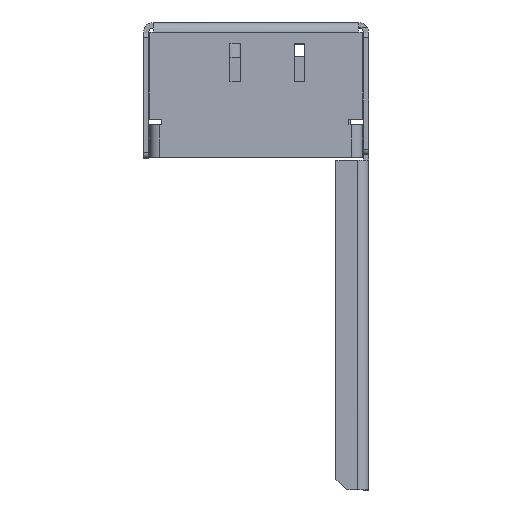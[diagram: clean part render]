
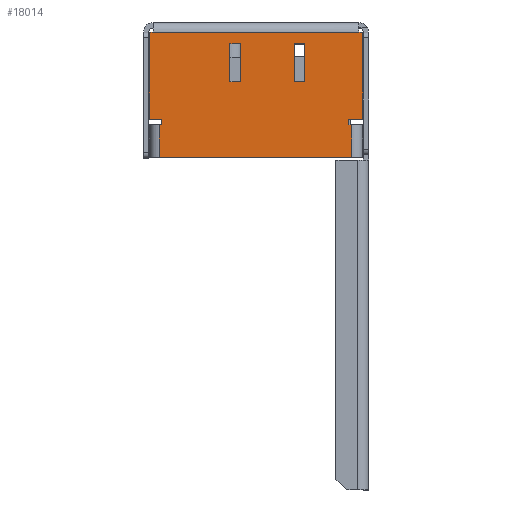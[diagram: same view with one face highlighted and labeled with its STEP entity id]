
A CAD part, left-side view. The second image highlights one B-rep face of the part: STEP entity #18014.
In plain terms, the highlighted planar face has unit normal (-1, 0, 0).
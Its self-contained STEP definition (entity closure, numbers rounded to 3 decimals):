
#17700=CARTESIAN_POINT('',(-27.05,-17.6,-17.8));
#17701=VERTEX_POINT('',#17700);
#17709=CARTESIAN_POINT('',(-27.05,-17.6,-23.8));
#17710=VERTEX_POINT('',#17709);
#17711=CARTESIAN_POINT('',(-27.05,-17.6,-23.8));
#17712=DIRECTION('',(0.0,0.0,1.0));
#17713=VECTOR('',#17712,6.0);
#17714=LINE('',#17711,#17713);
#17715=EDGE_CURVE('',#17710,#17701,#17714,.T.);
#17825=CARTESIAN_POINT('',(-27.05,17.8,-23.8));
#17826=VERTEX_POINT('',#17825);
#17827=CARTESIAN_POINT('',(-27.05,17.8,-23.8));
#17828=DIRECTION('',(0.0,-1.0,0.0));
#17829=VECTOR('',#17828,35.4);
#17830=LINE('',#17827,#17829);
#17831=EDGE_CURVE('',#17826,#17710,#17830,.T.);
#17843=CARTESIAN_POINT('',(-27.05,-0.341,-18.935));
#17844=DIRECTION('',(-1.0,0.0,0.0));
#17845=DIRECTION('',(0.0,0.0,1.0));
#17846=AXIS2_PLACEMENT_3D('',#17843,#17844,#17845);
#17847=PLANE('',#17846);
#17848=ORIENTED_EDGE('',*,*,#17831,.T.);
#17849=ORIENTED_EDGE('',*,*,#17715,.T.);
#17850=CARTESIAN_POINT('',(-27.05,-17.1,-17.8));
#17851=VERTEX_POINT('',#17850);
#17852=CARTESIAN_POINT('',(-27.05,-17.6,-17.8));
#17853=DIRECTION('',(0.0,1.0,0.0));
#17854=VECTOR('',#17853,0.5);
#17855=LINE('',#17852,#17854);
#17856=EDGE_CURVE('',#17701,#17851,#17855,.T.);
#17857=ORIENTED_EDGE('',*,*,#17856,.T.);
#17858=CARTESIAN_POINT('',(-27.05,-17.1,-16.8));
#17859=VERTEX_POINT('',#17858);
#17860=CARTESIAN_POINT('',(-27.05,-17.1,-17.8));
#17861=DIRECTION('',(0.0,0.0,1.0));
#17862=VECTOR('',#17861,1.0);
#17863=LINE('',#17860,#17862);
#17864=EDGE_CURVE('',#17851,#17859,#17863,.T.);
#17865=ORIENTED_EDGE('',*,*,#17864,.T.);
#17866=CARTESIAN_POINT('',(-27.05,-19.6,-16.8));
#17867=VERTEX_POINT('',#17866);
#17868=CARTESIAN_POINT('',(-27.05,-17.1,-16.8));
#17869=DIRECTION('',(0.0,-1.0,0.0));
#17870=VECTOR('',#17869,2.5);
#17871=LINE('',#17868,#17870);
#17872=EDGE_CURVE('',#17859,#17867,#17871,.T.);
#17873=ORIENTED_EDGE('',*,*,#17872,.T.);
#17874=CARTESIAN_POINT('',(-27.05,-19.6,-0.8));
#17875=VERTEX_POINT('',#17874);
#17876=CARTESIAN_POINT('',(-27.05,-19.6,-0.8));
#17877=DIRECTION('',(0.0,0.0,-1.0));
#17878=VECTOR('',#17877,16.0);
#17879=LINE('',#17876,#17878);
#17880=EDGE_CURVE('',#17875,#17867,#17879,.T.);
#17881=ORIENTED_EDGE('',*,*,#17880,.F.);
#17882=CARTESIAN_POINT('',(-27.05,-18.9,-0.8));
#17883=VERTEX_POINT('',#17882);
#17884=CARTESIAN_POINT('',(-27.05,-18.9,-0.8));
#17885=DIRECTION('',(0.0,-1.0,0.0));
#17886=VECTOR('',#17885,0.7);
#17887=LINE('',#17884,#17886);
#17888=EDGE_CURVE('',#17883,#17875,#17887,.T.);
#17889=ORIENTED_EDGE('',*,*,#17888,.F.);
#17890=CARTESIAN_POINT('',(-27.05,18.9,-0.8));
#17891=VERTEX_POINT('',#17890);
#17892=CARTESIAN_POINT('',(-27.05,-18.9,-0.8));
#17893=DIRECTION('',(0.0,1.0,0.0));
#17894=VECTOR('',#17893,37.8);
#17895=LINE('',#17892,#17894);
#17896=EDGE_CURVE('',#17883,#17891,#17895,.T.);
#17897=ORIENTED_EDGE('',*,*,#17896,.T.);
#17898=CARTESIAN_POINT('',(-27.05,19.6,-0.8));
#17899=VERTEX_POINT('',#17898);
#17900=CARTESIAN_POINT('',(-27.05,19.6,-0.8));
#17901=DIRECTION('',(0.0,-1.0,0.0));
#17902=VECTOR('',#17901,0.7);
#17903=LINE('',#17900,#17902);
#17904=EDGE_CURVE('',#17899,#17891,#17903,.T.);
#17905=ORIENTED_EDGE('',*,*,#17904,.F.);
#17906=CARTESIAN_POINT('',(-27.05,19.6,-16.8));
#17907=VERTEX_POINT('',#17906);
#17908=CARTESIAN_POINT('',(-27.05,19.6,-16.8));
#17909=DIRECTION('',(0.0,0.0,1.0));
#17910=VECTOR('',#17909,16.);
#17911=LINE('',#17908,#17910);
#17912=EDGE_CURVE('',#17907,#17899,#17911,.T.);
#17913=ORIENTED_EDGE('',*,*,#17912,.F.);
#17914=CARTESIAN_POINT('',(-27.05,17.3,-16.8));
#17915=VERTEX_POINT('',#17914);
#17916=CARTESIAN_POINT('',(-27.05,19.6,-16.8));
#17917=DIRECTION('',(0.0,-1.0,0.0));
#17918=VECTOR('',#17917,2.3);
#17919=LINE('',#17916,#17918);
#17920=EDGE_CURVE('',#17907,#17915,#17919,.T.);
#17921=ORIENTED_EDGE('',*,*,#17920,.T.);
#17922=CARTESIAN_POINT('',(-27.05,17.3,-17.8));
#17923=VERTEX_POINT('',#17922);
#17924=CARTESIAN_POINT('',(-27.05,17.3,-16.8));
#17925=DIRECTION('',(0.0,0.0,-1.0));
#17926=VECTOR('',#17925,1.);
#17927=LINE('',#17924,#17926);
#17928=EDGE_CURVE('',#17915,#17923,#17927,.T.);
#17929=ORIENTED_EDGE('',*,*,#17928,.T.);
#17930=CARTESIAN_POINT('',(-27.05,17.8,-17.8));
#17931=VERTEX_POINT('',#17930);
#17932=CARTESIAN_POINT('',(-27.05,17.3,-17.8));
#17933=DIRECTION('',(0.0,1.0,0.0));
#17934=VECTOR('',#17933,0.5);
#17935=LINE('',#17932,#17934);
#17936=EDGE_CURVE('',#17923,#17931,#17935,.T.);
#17937=ORIENTED_EDGE('',*,*,#17936,.T.);
#17938=CARTESIAN_POINT('',(-27.05,17.8,-17.8));
#17939=DIRECTION('',(0.0,0.0,-1.0));
#17940=VECTOR('',#17939,6.0);
#17941=LINE('',#17938,#17940);
#17942=EDGE_CURVE('',#17931,#17826,#17941,.T.);
#17943=ORIENTED_EDGE('',*,*,#17942,.T.);
#17944=EDGE_LOOP('',(#17848,#17849,#17857,#17865,#17873,#17881,#17889,#17897,#17905,#17913,#17921,#17929,#17937,#17943));
#17945=FACE_OUTER_BOUND('',#17944,.T.);
#17946=CARTESIAN_POINT('',(-27.05,2.8,-9.9));
#17947=VERTEX_POINT('',#17946);
#17948=CARTESIAN_POINT('',(-27.05,4.8,-9.9));
#17949=VERTEX_POINT('',#17948);
#17950=CARTESIAN_POINT('',(-27.05,2.8,-9.9));
#17951=DIRECTION('',(0.0,1.0,0.0));
#17952=VECTOR('',#17951,2.);
#17953=LINE('',#17950,#17952);
#17954=EDGE_CURVE('',#17947,#17949,#17953,.T.);
#17955=ORIENTED_EDGE('',*,*,#17954,.T.);
#17956=CARTESIAN_POINT('',(-27.05,4.8,-2.9));
#17957=VERTEX_POINT('',#17956);
#17958=CARTESIAN_POINT('',(-27.05,4.8,-9.9));
#17959=DIRECTION('',(0.0,0.0,1.0));
#17960=VECTOR('',#17959,7.);
#17961=LINE('',#17958,#17960);
#17962=EDGE_CURVE('',#17949,#17957,#17961,.T.);
#17963=ORIENTED_EDGE('',*,*,#17962,.T.);
#17964=CARTESIAN_POINT('',(-27.05,2.8,-2.9));
#17965=VERTEX_POINT('',#17964);
#17966=CARTESIAN_POINT('',(-27.05,4.8,-2.9));
#17967=DIRECTION('',(0.0,-1.0,0.0));
#17968=VECTOR('',#17967,2.);
#17969=LINE('',#17966,#17968);
#17970=EDGE_CURVE('',#17957,#17965,#17969,.T.);
#17971=ORIENTED_EDGE('',*,*,#17970,.T.);
#17972=CARTESIAN_POINT('',(-27.05,2.8,-2.9));
#17973=DIRECTION('',(0.0,0.0,-1.0));
#17974=VECTOR('',#17973,7.);
#17975=LINE('',#17972,#17974);
#17976=EDGE_CURVE('',#17965,#17947,#17975,.T.);
#17977=ORIENTED_EDGE('',*,*,#17976,.T.);
#17978=EDGE_LOOP('',(#17955,#17963,#17971,#17977));
#17979=FACE_BOUND('',#17978,.T.);
#17980=CARTESIAN_POINT('',(-27.05,-9.,-9.9));
#17981=VERTEX_POINT('',#17980);
#17982=CARTESIAN_POINT('',(-27.05,-7.,-9.9));
#17983=VERTEX_POINT('',#17982);
#17984=CARTESIAN_POINT('',(-27.05,-9.,-9.9));
#17985=DIRECTION('',(0.0,1.0,0.0));
#17986=VECTOR('',#17985,2.0);
#17987=LINE('',#17984,#17986);
#17988=EDGE_CURVE('',#17981,#17983,#17987,.T.);
#17989=ORIENTED_EDGE('',*,*,#17988,.T.);
#17990=CARTESIAN_POINT('',(-27.05,-7.,-2.9));
#17991=VERTEX_POINT('',#17990);
#17992=CARTESIAN_POINT('',(-27.05,-7.,-9.9));
#17993=DIRECTION('',(0.0,0.0,1.0));
#17994=VECTOR('',#17993,7.);
#17995=LINE('',#17992,#17994);
#17996=EDGE_CURVE('',#17983,#17991,#17995,.T.);
#17997=ORIENTED_EDGE('',*,*,#17996,.T.);
#17998=CARTESIAN_POINT('',(-27.05,-9.,-2.9));
#17999=VERTEX_POINT('',#17998);
#18000=CARTESIAN_POINT('',(-27.05,-7.,-2.9));
#18001=DIRECTION('',(0.0,-1.0,0.0));
#18002=VECTOR('',#18001,2.0);
#18003=LINE('',#18000,#18002);
#18004=EDGE_CURVE('',#17991,#17999,#18003,.T.);
#18005=ORIENTED_EDGE('',*,*,#18004,.T.);
#18006=CARTESIAN_POINT('',(-27.05,-9.,-2.9));
#18007=DIRECTION('',(0.0,0.0,-1.0));
#18008=VECTOR('',#18007,7.);
#18009=LINE('',#18006,#18008);
#18010=EDGE_CURVE('',#17999,#17981,#18009,.T.);
#18011=ORIENTED_EDGE('',*,*,#18010,.T.);
#18012=EDGE_LOOP('',(#17989,#17997,#18005,#18011));
#18013=FACE_BOUND('',#18012,.T.);
#18014=ADVANCED_FACE('',(#17945,#17979,#18013),#17847,.T.);
